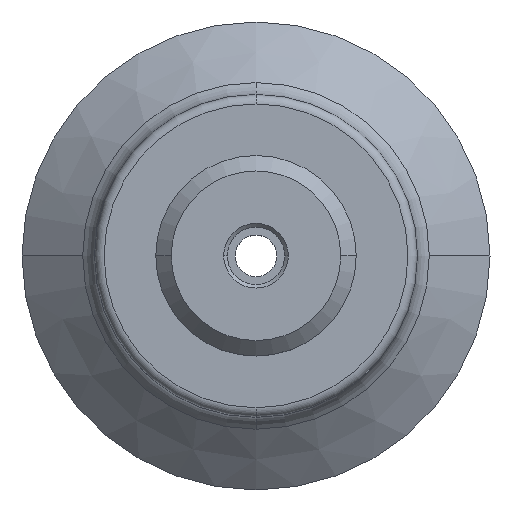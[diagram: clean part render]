
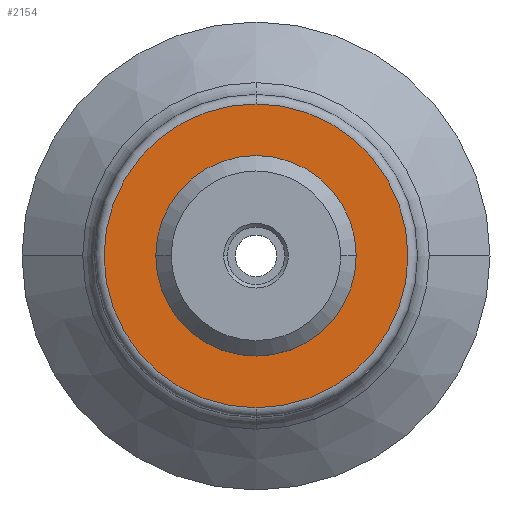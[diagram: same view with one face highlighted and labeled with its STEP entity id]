
A CAD part, top view. The second image highlights one B-rep face of the part: STEP entity #2154.
In plain terms, the highlighted planar face has unit normal (0, 0, 1).
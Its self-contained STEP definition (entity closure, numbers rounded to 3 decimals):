
#53 = EDGE_LOOP ( 'NONE', ( #5224, #5093 ) ) ;
#112 = DIRECTION ( 'NONE',  ( 0., 0., -1. ) ) ;
#293 = DIRECTION ( 'NONE',  ( 1., 0., 0. ) ) ;
#359 = PLANE ( 'NONE',  #2431 ) ;
#607 = DIRECTION ( 'NONE',  ( 0., 0., -1. ) ) ;
#879 = EDGE_CURVE ( 'NONE', #6464, #7716, #7530, .T. ) ;
#1613 = CARTESIAN_POINT ( 'NONE',  ( 0., -49.25, 31.001 ) ) ;
#1917 = FACE_BOUND ( 'NONE', #53, .T. ) ;
#2154 = ADVANCED_FACE ( 'NONE', ( #1917, #3415 ), #359, .T. ) ;
#2208 = CARTESIAN_POINT ( 'NONE',  ( 0., 0., 31.001 ) ) ;
#2431 = AXIS2_PLACEMENT_3D ( 'NONE', #7480, #3595, #8152 ) ;
#2835 = DIRECTION ( 'NONE',  ( 1., 0., 0. ) ) ;
#2860 = AXIS2_PLACEMENT_3D ( 'NONE', #2208, #6740, #2835 ) ;
#2953 = VERTEX_POINT ( 'NONE', #4598 ) ;
#3415 = FACE_OUTER_BOUND ( 'NONE', #4473, .T. ) ;
#3425 = CARTESIAN_POINT ( 'NONE',  ( 0., 49.25, 31.001 ) ) ;
#3595 = DIRECTION ( 'NONE',  ( 0., 0., 1. ) ) ;
#3943 = CARTESIAN_POINT ( 'NONE',  ( 0., 0., 31.001 ) ) ;
#4138 = DIRECTION ( 'NONE',  ( 0., 0., -1. ) ) ;
#4408 = VERTEX_POINT ( 'NONE', #5969 ) ;
#4473 = EDGE_LOOP ( 'NONE', ( #6098, #8329 ) ) ;
#4479 = CARTESIAN_POINT ( 'NONE',  ( 0., 0., 31.001 ) ) ;
#4598 = CARTESIAN_POINT ( 'NONE',  ( 0., -29.5, 31.001 ) ) ;
#4621 = DIRECTION ( 'NONE',  ( 1., 0., 0. ) ) ;
#4987 = CIRCLE ( 'NONE', #6684, 29.5 ) ;
#5046 = AXIS2_PLACEMENT_3D ( 'NONE', #8053, #4138, #293 ) ;
#5093 = ORIENTED_EDGE ( 'NONE', *, *, #5680, .T. ) ;
#5140 = DIRECTION ( 'NONE',  ( 1., 0., 0. ) ) ;
#5224 = ORIENTED_EDGE ( 'NONE', *, *, #6342, .T. ) ;
#5460 = CIRCLE ( 'NONE', #2860, 49.25 ) ;
#5670 = EDGE_CURVE ( 'NONE', #7716, #6464, #5460, .T. ) ;
#5680 = EDGE_CURVE ( 'NONE', #2953, #4408, #6975, .T. ) ;
#5969 = CARTESIAN_POINT ( 'NONE',  ( 0., 29.5, 31.001 ) ) ;
#6098 = ORIENTED_EDGE ( 'NONE', *, *, #879, .F. ) ;
#6342 = EDGE_CURVE ( 'NONE', #4408, #2953, #4987, .T. ) ;
#6394 = AXIS2_PLACEMENT_3D ( 'NONE', #4479, #607, #5140 ) ;
#6464 = VERTEX_POINT ( 'NONE', #3425 ) ;
#6684 = AXIS2_PLACEMENT_3D ( 'NONE', #3943, #112, #4621 ) ;
#6740 = DIRECTION ( 'NONE',  ( 0., 0., -1. ) ) ;
#6975 = CIRCLE ( 'NONE', #5046, 29.5 ) ;
#7480 = CARTESIAN_POINT ( 'NONE',  ( 39.375, 0., 31.001 ) ) ;
#7530 = CIRCLE ( 'NONE', #6394, 49.25 ) ;
#7716 = VERTEX_POINT ( 'NONE', #1613 ) ;
#8053 = CARTESIAN_POINT ( 'NONE',  ( 0., 0., 31.001 ) ) ;
#8152 = DIRECTION ( 'NONE',  ( 0., -1., 0. ) ) ;
#8329 = ORIENTED_EDGE ( 'NONE', *, *, #5670, .F. ) ;
